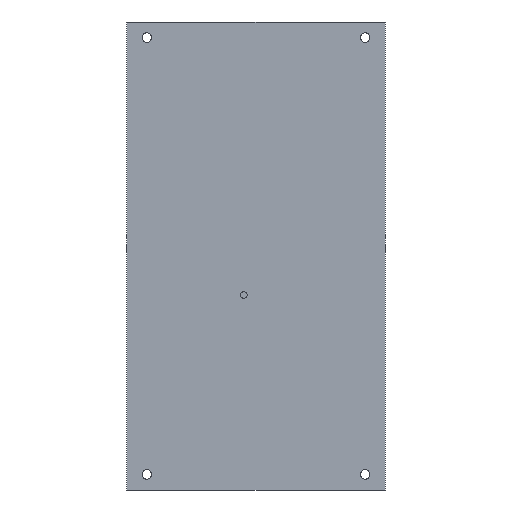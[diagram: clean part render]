
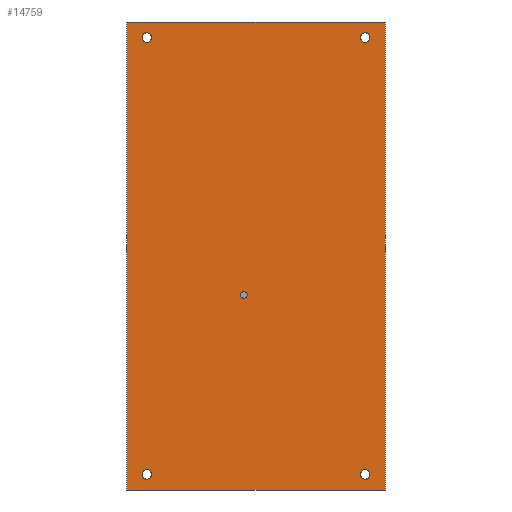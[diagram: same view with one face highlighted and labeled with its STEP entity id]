
A CAD part, front view. The second image highlights one B-rep face of the part: STEP entity #14759.
In plain terms, the highlighted planar face has unit normal (0, -1, 0).
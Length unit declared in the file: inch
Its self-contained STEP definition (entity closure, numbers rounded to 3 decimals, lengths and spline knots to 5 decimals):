
#571=FACE_BOUND('',#2627,.T.);
#572=FACE_BOUND('',#2628,.T.);
#573=FACE_BOUND('',#2629,.T.);
#574=FACE_BOUND('',#2630,.T.);
#575=FACE_BOUND('',#2631,.T.);
#1550=FACE_OUTER_BOUND('',#2626,.T.);
#2626=EDGE_LOOP('',(#12493,#12494,#12495,#12496));
#2627=EDGE_LOOP('',(#12497));
#2628=EDGE_LOOP('',(#12498));
#2629=EDGE_LOOP('',(#12499));
#2630=EDGE_LOOP('',(#12500));
#2631=EDGE_LOOP('',(#12501));
#3163=CIRCLE('',#16203,0.05906);
#3164=CIRCLE('',#16205,0.08465);
#3166=CIRCLE('',#16208,0.08465);
#3168=CIRCLE('',#16211,0.08465);
#3170=CIRCLE('',#16214,0.08465);
#4389=LINE('',#24722,#5649);
#4391=LINE('',#24726,#5651);
#4394=LINE('',#24731,#5654);
#4397=LINE('',#24764,#5657);
#5649=VECTOR('',#20270,0.3937);
#5651=VECTOR('',#20274,0.3937);
#5654=VECTOR('',#20279,0.3937);
#5657=VECTOR('',#20324,0.3937);
#6869=VERTEX_POINT('',#24719);
#6870=VERTEX_POINT('',#24721);
#6871=VERTEX_POINT('',#24725);
#6872=VERTEX_POINT('',#24730);
#6873=VERTEX_POINT('',#24740);
#6874=VERTEX_POINT('',#24743);
#6876=VERTEX_POINT('',#24748);
#6878=VERTEX_POINT('',#24753);
#6880=VERTEX_POINT('',#24758);
#8754=EDGE_CURVE('',#6870,#6869,#4389,.T.);
#8756=EDGE_CURVE('',#6871,#6870,#4391,.T.);
#8759=EDGE_CURVE('',#6872,#6871,#4394,.T.);
#8761=EDGE_CURVE('',#6873,#6873,#3163,.T.);
#8762=EDGE_CURVE('',#6874,#6874,#3164,.T.);
#8764=EDGE_CURVE('',#6876,#6876,#3166,.T.);
#8766=EDGE_CURVE('',#6878,#6878,#3168,.T.);
#8768=EDGE_CURVE('',#6880,#6880,#3170,.T.);
#8771=EDGE_CURVE('',#6869,#6872,#4397,.T.);
#12493=ORIENTED_EDGE('',*,*,#8756,.T.);
#12494=ORIENTED_EDGE('',*,*,#8754,.T.);
#12495=ORIENTED_EDGE('',*,*,#8771,.T.);
#12496=ORIENTED_EDGE('',*,*,#8759,.T.);
#12497=ORIENTED_EDGE('',*,*,#8761,.T.);
#12498=ORIENTED_EDGE('',*,*,#8762,.T.);
#12499=ORIENTED_EDGE('',*,*,#8764,.T.);
#12500=ORIENTED_EDGE('',*,*,#8766,.T.);
#12501=ORIENTED_EDGE('',*,*,#8768,.T.);
#13105=PLANE('',#16217);
#14759=ADVANCED_FACE('',(#1550,#571,#572,#573,#574,#575),#13105,.T.);
#16203=AXIS2_PLACEMENT_3D('',#24741,#20295,#20296);
#16205=AXIS2_PLACEMENT_3D('',#24744,#20299,#20300);
#16208=AXIS2_PLACEMENT_3D('',#24749,#20305,#20306);
#16211=AXIS2_PLACEMENT_3D('',#24754,#20311,#20312);
#16214=AXIS2_PLACEMENT_3D('',#24759,#20317,#20318);
#16217=AXIS2_PLACEMENT_3D('',#24765,#20325,#20326);
#20270=DIRECTION('',(0.,0.,-1.));
#20274=DIRECTION('',(-1.,0.,0.));
#20279=DIRECTION('',(0.,0.,1.));
#20295=DIRECTION('center_axis',(0.,1.,0.));
#20296=DIRECTION('ref_axis',(1.,0.,0.));
#20299=DIRECTION('center_axis',(0.,1.,0.));
#20300=DIRECTION('ref_axis',(1.,0.,0.));
#20305=DIRECTION('center_axis',(0.,1.,0.));
#20306=DIRECTION('ref_axis',(1.,0.,0.));
#20311=DIRECTION('center_axis',(0.,1.,0.));
#20312=DIRECTION('ref_axis',(1.,0.,0.));
#20317=DIRECTION('center_axis',(0.,1.,0.));
#20318=DIRECTION('ref_axis',(1.,0.,0.));
#20324=DIRECTION('',(1.,0.,0.));
#20325=DIRECTION('center_axis',(0.,-1.,0.));
#20326=DIRECTION('ref_axis',(0.,0.,-1.));
#24719=CARTESIAN_POINT('',(-2.39823,-0.14244,-4.13386));
#24721=CARTESIAN_POINT('',(-2.39823,-0.14244,4.13386));
#24722=CARTESIAN_POINT('',(-2.39823,-0.14244,4.13386));
#24725=CARTESIAN_POINT('',(2.1687,-0.14244,4.13386));
#24726=CARTESIAN_POINT('',(2.1687,-0.14244,4.13386));
#24730=CARTESIAN_POINT('',(2.1687,-0.14244,-4.13386));
#24731=CARTESIAN_POINT('',(2.1687,-0.14244,-4.13386));
#24740=CARTESIAN_POINT('',(-0.27225,-0.14244,-0.68898));
#24741=CARTESIAN_POINT('Origin',(-0.3313,-0.14244,
-0.68898));
#24743=CARTESIAN_POINT('',(1.72972,-0.14244,-3.85827));
#24744=CARTESIAN_POINT('Origin',(1.81436,-0.14244,-3.85827));
#24748=CARTESIAN_POINT('',(-2.12855,-0.14244,3.85827));
#24749=CARTESIAN_POINT('Origin',(-2.0439,-0.14244,3.85827));
#24753=CARTESIAN_POINT('',(-2.12855,-0.14244,-3.85827));
#24754=CARTESIAN_POINT('Origin',(-2.0439,-0.14244,-3.85827));
#24758=CARTESIAN_POINT('',(1.72972,-0.14244,3.85827));
#24759=CARTESIAN_POINT('Origin',(1.81436,-0.14244,3.85827));
#24764=CARTESIAN_POINT('',(-2.39823,-0.14244,-4.13386));
#24765=CARTESIAN_POINT('Origin',(-0.11477,-0.14244,
0.));
